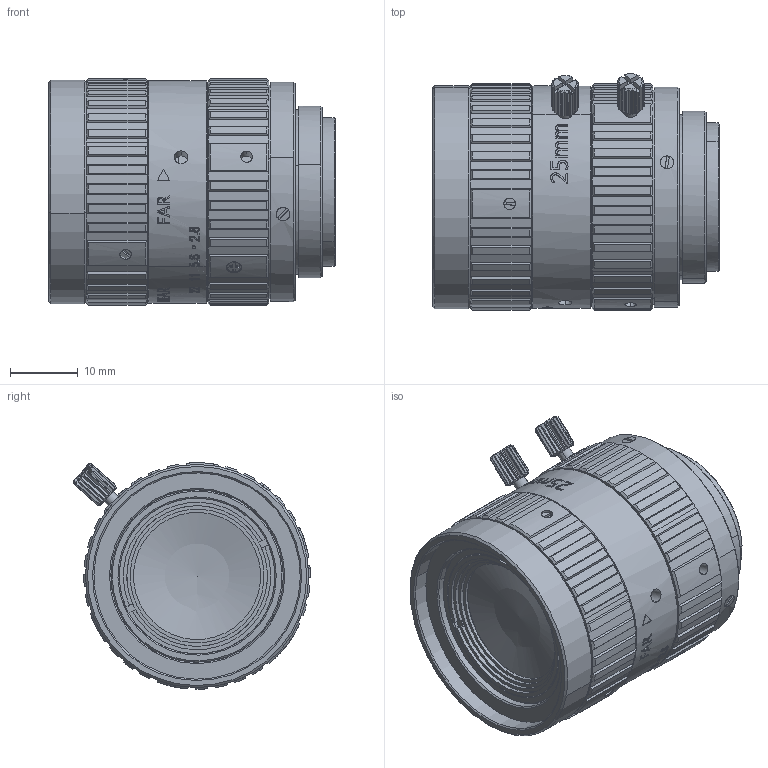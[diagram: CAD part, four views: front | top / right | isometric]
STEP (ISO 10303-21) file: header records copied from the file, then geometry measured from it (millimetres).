
FILE_DESCRIPTION (( 'STEP AP214' ), '1' );
FILE_NAME ('25mm_1_1inch_asm_asm.STEP', '2021-08-07T00:53:38', ( '1' ), ( '' ), 'SwSTEP 2.0', 'SolidWorks 2020', '' );
FILE_SCHEMA (( 'AUTOMOTIVE_DESIGN' ));
Length unit declared in the file: millimetre
Products named in the file (3): _25MM_1_1INCH_ASM.stp; 25mm_1_1inch_asm_asm; 25mm_1_1inch_asm_asm.stp
Assembly tree (2 placements, depth 3):
  25mm_1_1inch_asm_asm
    25mm_1_1inch_asm_asm.stp
      _25MM_1_1INCH_ASM.stp
Bounding box: 42.42 x 34.99 x 33.49 mm (x, y, z)
Surface area: 19267.9 mm2 (no closed solid volume)
Topology: 0 solids, 8 shells, 1591 faces, 4136 edges, 2631 vertices
Faces by surface type: plane 568, cylinder 470, bspline 292, cone 249, torus 8, sphere 4
Entity records: 73067 total; most frequent: CARTESIAN_POINT 42293, ORIENTED_EDGE 8216, EDGE_CURVE 4113, B_SPLINE_CURVE_WITH_KNOTS 3705, DIRECTION 3250, VERTEX_POINT 2626, EDGE_LOOP 1717, FACE_OUTER_BOUND 1591
